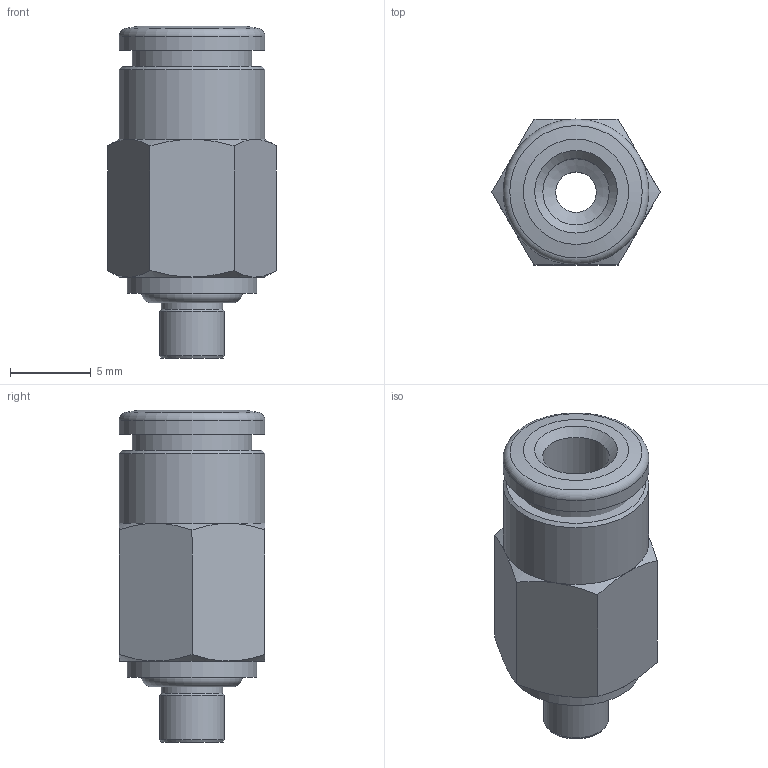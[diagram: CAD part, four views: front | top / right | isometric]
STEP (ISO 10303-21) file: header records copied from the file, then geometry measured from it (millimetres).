
FILE_DESCRIPTION(/* description */ (''),/* implementation_level */ '2;1');
FILE_NAME(/* name */ '200101ES_STX_01_4_M5_15.04.15',/* time_stamp */ '2015-04-15T11:52:36+02:00',/* author */ (''),/* organization */ (''),/* preprocessor_version */ 'ST-DEVELOPER v14',/* originating_system */ 'HiCAD 2013 1802.4 Build 509',/* authorisation */ '');
FILE_SCHEMA (('AUTOMOTIVE_DESIGN { 1 0 10303 214 1 1 1 1 }'));
Length unit declared in the file: millimetre
Products named in the file (4): Root; OR 4X1.2; R200101-ES-N; DR4-1_NEU
Assembly tree (3 placements, depth 2):
  Root
    OR 4X1.2
    R200101-ES-N
    DR4-1_NEU
Bounding box: 10.39 x 9 x 20.5 mm (x, y, z)
Volume: 812.9 mm3; surface area: 1310.5 mm2
Topology: 3 solids, 3 shells, 55 faces, 112 edges, 66 vertices
Faces by surface type: cone 24, plane 15, cylinder 12, torus 4
Full cylindrical faces by diameter (mm): 2.5 x1, 3.8 x1, 4.019 x1, 4.1 x1, 4.2 x1, 6.4 x1, 6.6 x1, 7.2 x1, 7.4 x1, 8 x1, 9 x2
Entity records: 2108 total; most frequent: DIRECTION 270, CARTESIAN_POINT 197, PRESENTATION_STYLE_ASSIGNMENT 157, COLOUR_RGB 157, DRAUGHTING_PRE_DEFINED_CURVE_FONT 154, CURVE_STYLE 154, OVER_RIDING_STYLED_ITEM 154, ORIENTED_EDGE 154
